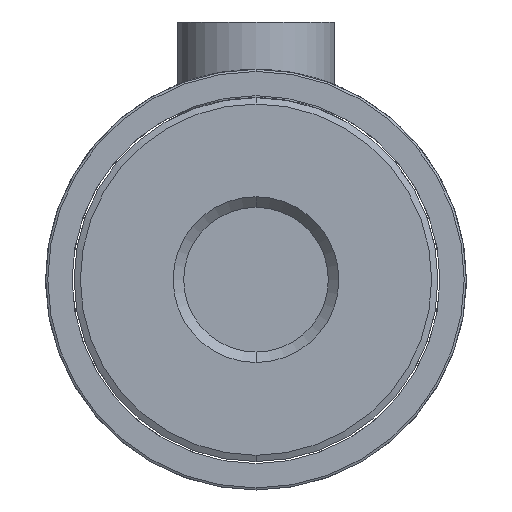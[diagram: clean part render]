
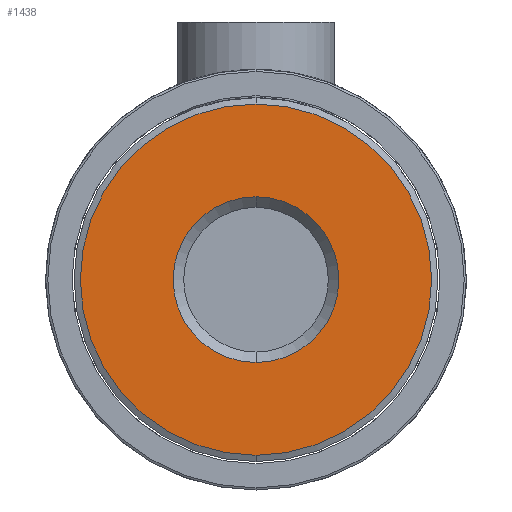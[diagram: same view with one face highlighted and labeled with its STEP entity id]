
A CAD part, front view. The second image highlights one B-rep face of the part: STEP entity #1438.
In plain terms, the highlighted planar face has unit normal (0, -1, 0).
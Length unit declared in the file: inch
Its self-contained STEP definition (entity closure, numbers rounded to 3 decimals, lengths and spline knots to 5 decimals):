
#11 = VERTEX_POINT ( 'NONE', #92 ) ;
#21 = VERTEX_POINT ( 'NONE', #71 ) ;
#25 = VERTEX_POINT ( 'NONE', #84 ) ;
#46 = VERTEX_POINT ( 'NONE', #159 ) ;
#71 = CARTESIAN_POINT ( 'NONE',  ( 0., 0., -0.835 ) ) ;
#84 = CARTESIAN_POINT ( 'NONE',  ( 0., 0., -0.394 ) ) ;
#92 = CARTESIAN_POINT ( 'NONE',  ( 0., 0., 0.835 ) ) ;
#147 = CARTESIAN_POINT ( 'NONE',  ( 0., 0., 0. ) ) ;
#158 = DIRECTION ( 'NONE',  ( 0., -1., 0. ) ) ;
#159 = CARTESIAN_POINT ( 'NONE',  ( 0., 0., 0.394 ) ) ;
#160 = DIRECTION ( 'NONE',  ( 0., 0., 1. ) ) ;
#271 = EDGE_CURVE ( 'NONE', #21, #11, #658, .T. ) ;
#317 = EDGE_CURVE ( 'NONE', #46, #25, #673, .T. ) ;
#321 = AXIS2_PLACEMENT_3D ( 'NONE', #147, #158, #160 ) ;
#333 = EDGE_CURVE ( 'NONE', #11, #21, #690, .T. ) ;
#343 = AXIS2_PLACEMENT_3D ( 'NONE', #1304, #1291, #1332 ) ;
#352 = AXIS2_PLACEMENT_3D ( 'NONE', #1213, #1184, #1205 ) ;
#402 = AXIS2_PLACEMENT_3D ( 'NONE', #1461, #1462, #1463 ) ;
#405 = AXIS2_PLACEMENT_3D ( 'NONE', #982, #975, #1012 ) ;
#497 = ORIENTED_EDGE ( 'NONE', *, *, #333, .T. ) ;
#512 = ORIENTED_EDGE ( 'NONE', *, *, #1399, .T. ) ;
#533 = ORIENTED_EDGE ( 'NONE', *, *, #271, .T. ) ;
#550 = ORIENTED_EDGE ( 'NONE', *, *, #317, .T. ) ;
#658 = CIRCLE ( 'NONE', #321, 0.835 ) ;
#673 = CIRCLE ( 'NONE', #352, 0.394 ) ;
#690 = CIRCLE ( 'NONE', #343, 0.835 ) ;
#727 = CIRCLE ( 'NONE', #405, 0.394 ) ;
#776 = FACE_OUTER_BOUND ( 'NONE', #885, .T. ) ;
#807 = FACE_BOUND ( 'NONE', #849, .T. ) ;
#849 = EDGE_LOOP ( 'NONE', ( #512, #550 ) ) ;
#885 = EDGE_LOOP ( 'NONE', ( #497, #533 ) ) ;
#975 = DIRECTION ( 'NONE',  ( 0., 1., 0. ) ) ;
#982 = CARTESIAN_POINT ( 'NONE',  ( 0., 0., 0. ) ) ;
#1012 = DIRECTION ( 'NONE',  ( 0., 0., 1. ) ) ;
#1184 = DIRECTION ( 'NONE',  ( 0., 1., 0. ) ) ;
#1205 = DIRECTION ( 'NONE',  ( 0., 0., 1. ) ) ;
#1213 = CARTESIAN_POINT ( 'NONE',  ( 0., 0., 0. ) ) ;
#1291 = DIRECTION ( 'NONE',  ( 0., -1., 0. ) ) ;
#1304 = CARTESIAN_POINT ( 'NONE',  ( 0., 0., 0. ) ) ;
#1332 = DIRECTION ( 'NONE',  ( 0., 0., 1. ) ) ;
#1399 = EDGE_CURVE ( 'NONE', #25, #46, #727, .T. ) ;
#1438 = ADVANCED_FACE ( 'NONE', ( #807, #776 ), #1457, .F. ) ;
#1457 = PLANE ( 'NONE',  #402 ) ;
#1461 = CARTESIAN_POINT ( 'NONE',  ( 0., 0., 0. ) ) ;
#1462 = DIRECTION ( 'NONE',  ( 0., 1., 0. ) ) ;
#1463 = DIRECTION ( 'NONE',  ( 0., 0., 1. ) ) ;
